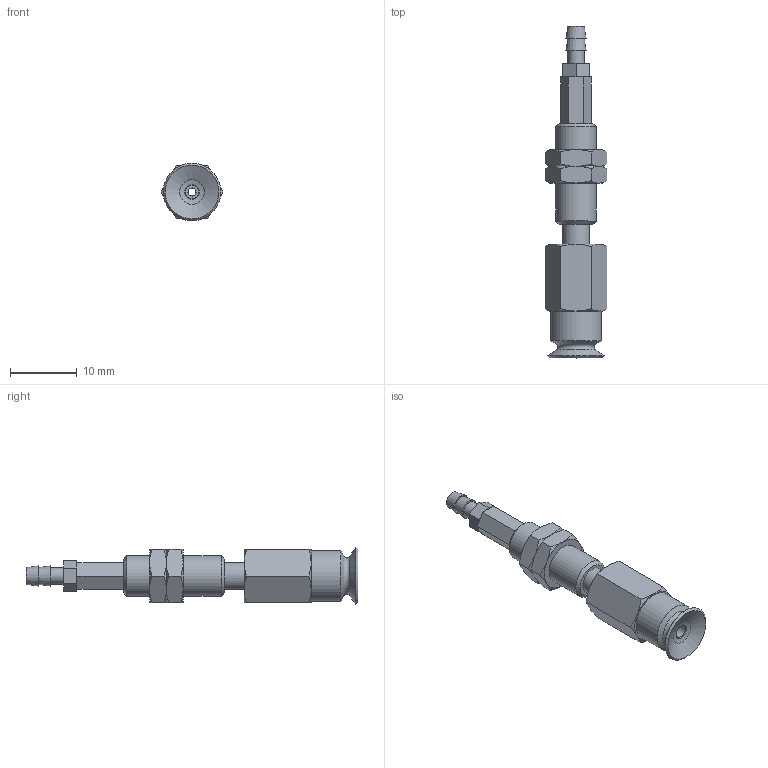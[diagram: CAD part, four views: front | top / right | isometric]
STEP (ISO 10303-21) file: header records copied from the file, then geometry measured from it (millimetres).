
FILE_DESCRIPTION(('STEP AP203'),'1');
FILE_NAME('-T.stp','2025-08-27T05:42:04',(' '),(' '),'Spatial InterOp 3D',' ',' ');
FILE_SCHEMA(('CONFIG_CONTROL_DESIGN'));
Length unit declared in the file: millimetre
Products named in the file (7): BNABPFTS-8A-3-※-T; ADAPTER; NAPCTS-7-3-MBODY; Nut-8A-3-s; NAPFTS-8A-3-FBODY; BPFG-8A-※; T (2)
Assembly tree (7 placements, depth 2):
  BNABPFTS-8A-3-※-T
    ADAPTER
    NAPCTS-7-3-MBODY
    Nut-8A-3-s  x2
    NAPFTS-8A-3-FBODY
    BPFG-8A-※
    T (2)
Bounding box: 9.24 x 49.6 x 8.6 mm (x, y, z)
Volume: 1532.8 mm3; surface area: 2342.4 mm2
Topology: 7 solids, 7 shells, 135 faces, 280 edges, 167 vertices
Faces by surface type: plane 58, cone 51, cylinder 17, torus 8, bspline 1
Full cylindrical faces by diameter (mm): 1.2 x3, 2 x1, 2.459 x1, 2.5 x1, 3 x1, 4 x4, 5.188 x2, 6 x3, 7.5 x1
Entity records: 3243 total; most frequent: CARTESIAN_POINT 731, DIRECTION 460, ORIENTED_EDGE 374, AXIS2_PLACEMENT_3D 203, EDGE_CURVE 187, EDGE_LOOP 169, FACE_OUTER_BOUND 137, VERTEX_POINT 132
